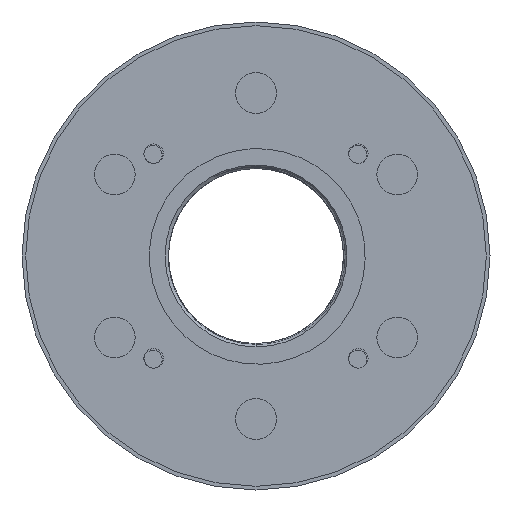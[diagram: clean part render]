
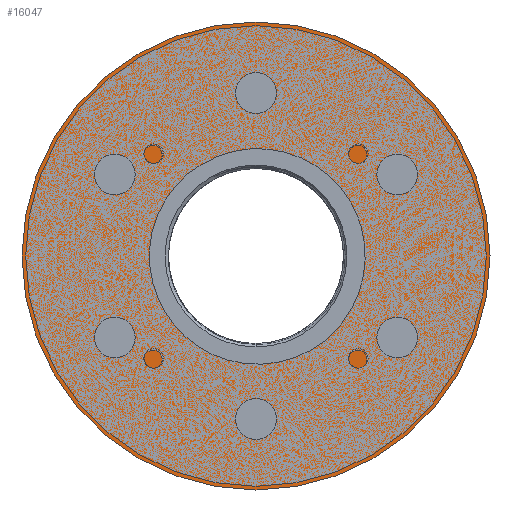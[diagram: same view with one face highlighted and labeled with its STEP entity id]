
A CAD part, front view. The second image highlights one B-rep face of the part: STEP entity #16047.
In plain terms, the highlighted planar face has unit normal (0, 1, 0).
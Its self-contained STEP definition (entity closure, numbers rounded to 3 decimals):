
#15845=CARTESIAN_POINT('',(20.689,0.,11.945));
#15846=DIRECTION('',(0.,1.,0.));
#15847=DIRECTION('',(0.,0.,1.));
#15848=AXIS2_PLACEMENT_3D('',#15845,#15846,#15847);
#15850=CARTESIAN_POINT('',(20.689,0.,11.945));
#15851=DIRECTION('',(0.,1.,0.));
#15852=DIRECTION('',(0.,0.,-1.));
#15853=AXIS2_PLACEMENT_3D('',#15850,#15851,#15852);
#15855=CARTESIAN_POINT('',(-20.689,0.,11.945));
#15856=DIRECTION('',(0.,1.,0.));
#15857=DIRECTION('',(0.,0.,1.));
#15858=AXIS2_PLACEMENT_3D('',#15855,#15856,#15857);
#15860=CARTESIAN_POINT('',(-20.689,0.,11.945));
#15861=DIRECTION('',(0.,1.,0.));
#15862=DIRECTION('',(0.,0.,-1.));
#15863=AXIS2_PLACEMENT_3D('',#15860,#15861,#15862);
#15865=CARTESIAN_POINT('',(0.,0.,-23.89));
#15866=DIRECTION('',(0.,1.,0.));
#15867=DIRECTION('',(0.,0.,1.));
#15868=AXIS2_PLACEMENT_3D('',#15865,#15866,#15867);
#15870=CARTESIAN_POINT('',(0.,0.,-23.89));
#15871=DIRECTION('',(0.,1.,0.));
#15872=DIRECTION('',(0.,0.,-1.));
#15873=AXIS2_PLACEMENT_3D('',#15870,#15871,#15872);
#15875=CARTESIAN_POINT('',(20.689,0.,-11.945));
#15876=DIRECTION('',(0.,1.,0.));
#15877=DIRECTION('',(0.,0.,1.));
#15878=AXIS2_PLACEMENT_3D('',#15875,#15876,#15877);
#15880=CARTESIAN_POINT('',(20.689,0.,-11.945));
#15881=DIRECTION('',(0.,1.,0.));
#15882=DIRECTION('',(0.,0.,-1.));
#15883=AXIS2_PLACEMENT_3D('',#15880,#15881,#15882);
#15885=CARTESIAN_POINT('',(-20.689,0.,-11.945));
#15886=DIRECTION('',(0.,1.,0.));
#15887=DIRECTION('',(0.,0.,1.));
#15888=AXIS2_PLACEMENT_3D('',#15885,#15886,#15887);
#15890=CARTESIAN_POINT('',(-20.689,0.,-11.945));
#15891=DIRECTION('',(0.,1.,0.));
#15892=DIRECTION('',(0.,0.,-1.));
#15893=AXIS2_PLACEMENT_3D('',#15890,#15891,#15892);
#15895=CARTESIAN_POINT('',(0.,0.,23.89));
#15896=DIRECTION('',(0.,1.,0.));
#15897=DIRECTION('',(0.,0.,1.));
#15898=AXIS2_PLACEMENT_3D('',#15895,#15896,#15897);
#15900=CARTESIAN_POINT('',(0.,0.,23.89));
#15901=DIRECTION('',(0.,1.,0.));
#15902=DIRECTION('',(0.,0.,-1.));
#15903=AXIS2_PLACEMENT_3D('',#15900,#15901,#15902);
#15905=CARTESIAN_POINT('',(0.,0.,0.));
#15906=DIRECTION('',(0.,-1.,0.));
#15907=DIRECTION('',(1.,0.,0.));
#15908=AXIS2_PLACEMENT_3D('',#15905,#15906,#15907);
#15910=CARTESIAN_POINT('',(0.,0.,0.));
#15911=DIRECTION('',(0.,-1.,0.));
#15912=DIRECTION('',(-1.,0.,0.));
#15913=AXIS2_PLACEMENT_3D('',#15910,#15911,#15912);
#15915=CARTESIAN_POINT('',(10.021,0.,-12.473));
#15916=CARTESIAN_POINT('',(9.252,0.,-13.075));
#15917=CARTESIAN_POINT('',(7.633,0.,-14.119));
#15918=CARTESIAN_POINT('',(4.922,0.,-15.24));
#15919=CARTESIAN_POINT('',(2.074,0.,-15.84));
#15920=CARTESIAN_POINT('',(-0.818,0.,-15.919));
#15921=CARTESIAN_POINT('',(-3.711,0.,-15.461));
#15922=CARTESIAN_POINT('',(-6.408,0.,-14.511));
#15923=CARTESIAN_POINT('',(-8.939,0.,-13.06));
#15924=CARTESIAN_POINT('',(-11.129,0.,-11.199));
#15925=CARTESIAN_POINT('',(-12.961,0.,-8.949));
#15926=CARTESIAN_POINT('',(-13.876,0.,-7.275));
#15927=CARTESIAN_POINT('',(-14.26,0.,-6.387));
#15929=CARTESIAN_POINT('',(0.,0.,0.));
#15930=DIRECTION('',(0.,1.,0.));
#15931=DIRECTION('',(-0.913,0.,-0.409));
#15932=AXIS2_PLACEMENT_3D('',#15929,#15930,#15931);
#15934=CARTESIAN_POINT('',(-7.908,0.,13.476));
#15935=CARTESIAN_POINT('',(-7.09,0.,13.971));
#15936=CARTESIAN_POINT('',(-5.389,0.,14.798));
#15937=CARTESIAN_POINT('',(-2.608,0.,15.572));
#15938=CARTESIAN_POINT('',(0.273,0.,15.822));
#15939=CARTESIAN_POINT('',(3.128,0.,15.551));
#15940=CARTESIAN_POINT('',(5.936,0.,14.751));
#15941=CARTESIAN_POINT('',(8.508,0.,13.474));
#15942=CARTESIAN_POINT('',(10.816,0.,11.755));
#15943=CARTESIAN_POINT('',(12.795,0.,9.63));
#15944=CARTESIAN_POINT('',(14.381,0.,7.133));
#15945=CARTESIAN_POINT('',(15.114,0.,5.307));
#15946=CARTESIAN_POINT('',(15.399,0.,4.345));
#15948=CARTESIAN_POINT('',(15.399,0.,4.345));
#15949=CARTESIAN_POINT('',(15.684,0.,3.333));
#15950=CARTESIAN_POINT('',(16.048,0.,1.297));
#15951=CARTESIAN_POINT('',(15.998,0.,-1.836));
#15952=CARTESIAN_POINT('',(15.334,0.,-4.911));
#15953=CARTESIAN_POINT('',(14.101,0.,-7.774));
#15954=CARTESIAN_POINT('',(12.319,0.,-10.367));
#15955=CARTESIAN_POINT('',(10.841,0.,-11.814));
#15956=CARTESIAN_POINT('',(10.021,0.,-12.473));
#15958=CARTESIAN_POINT('',(-34.29,0.,0.));
#15959=CARTESIAN_POINT('',(34.29,0.,0.));
#15960=VERTEX_POINT('',#15958);
#15961=VERTEX_POINT('',#15959);
#15962=VERTEX_POINT('',#15927);
#15963=VERTEX_POINT('',#15915);
#15964=VERTEX_POINT('',#15948);
#15965=VERTEX_POINT('',#15934);
#15966=CARTESIAN_POINT('',(20.689,0.,8.96));
#15967=CARTESIAN_POINT('',(20.689,0.,14.93));
#15968=VERTEX_POINT('',#15966);
#15969=VERTEX_POINT('',#15967);
#15970=CARTESIAN_POINT('',(-20.689,0.,8.96));
#15971=CARTESIAN_POINT('',(-20.689,0.,14.93));
#15972=VERTEX_POINT('',#15970);
#15973=VERTEX_POINT('',#15971);
#15974=CARTESIAN_POINT('',(0.,0.,-26.875));
#15975=CARTESIAN_POINT('',(0.,0.,-20.905));
#15976=VERTEX_POINT('',#15974);
#15977=VERTEX_POINT('',#15975);
#15978=CARTESIAN_POINT('',(20.689,0.,-14.93));
#15979=CARTESIAN_POINT('',(20.689,0.,-8.96));
#15980=VERTEX_POINT('',#15978);
#15981=VERTEX_POINT('',#15979);
#15982=CARTESIAN_POINT('',(-20.689,0.,-14.93));
#15983=CARTESIAN_POINT('',(-20.689,0.,-8.96));
#15984=VERTEX_POINT('',#15982);
#15985=VERTEX_POINT('',#15983);
#15986=CARTESIAN_POINT('',(0.,0.,20.905));
#15987=CARTESIAN_POINT('',(0.,0.,26.875));
#15988=VERTEX_POINT('',#15986);
#15989=VERTEX_POINT('',#15987);
#15990=CARTESIAN_POINT('',(0.,0.,0.));
#15991=DIRECTION('',(0.,1.,0.));
#15992=DIRECTION('',(-1.,0.,0.));
#15993=AXIS2_PLACEMENT_3D('',#15990,#15991,#15992);
#15994=PLANE('',#15993);
#15996=ORIENTED_EDGE('',*,*,#15995,.T.);
#15998=ORIENTED_EDGE('',*,*,#15997,.T.);
#15999=EDGE_LOOP('',(#15996,#15998));
#16000=FACE_OUTER_BOUND('',#15999,.F.);
#16002=ORIENTED_EDGE('',*,*,#16001,.T.);
#16004=ORIENTED_EDGE('',*,*,#16003,.T.);
#16005=EDGE_LOOP('',(#16002,#16004));
#16006=FACE_BOUND('',#16005,.F.);
#16008=ORIENTED_EDGE('',*,*,#16007,.T.);
#16010=ORIENTED_EDGE('',*,*,#16009,.T.);
#16011=EDGE_LOOP('',(#16008,#16010));
#16012=FACE_BOUND('',#16011,.F.);
#16014=ORIENTED_EDGE('',*,*,#16013,.T.);
#16016=ORIENTED_EDGE('',*,*,#16015,.T.);
#16017=EDGE_LOOP('',(#16014,#16016));
#16018=FACE_BOUND('',#16017,.F.);
#16020=ORIENTED_EDGE('',*,*,#16019,.T.);
#16022=ORIENTED_EDGE('',*,*,#16021,.T.);
#16023=EDGE_LOOP('',(#16020,#16022));
#16024=FACE_BOUND('',#16023,.F.);
#16026=ORIENTED_EDGE('',*,*,#16025,.T.);
#16028=ORIENTED_EDGE('',*,*,#16027,.T.);
#16029=EDGE_LOOP('',(#16026,#16028));
#16030=FACE_BOUND('',#16029,.F.);
#16032=ORIENTED_EDGE('',*,*,#16031,.T.);
#16034=ORIENTED_EDGE('',*,*,#16033,.T.);
#16035=EDGE_LOOP('',(#16032,#16034));
#16036=FACE_BOUND('',#16035,.F.);
#16038=ORIENTED_EDGE('',*,*,#16037,.T.);
#16040=ORIENTED_EDGE('',*,*,#16039,.T.);
#16042=ORIENTED_EDGE('',*,*,#16041,.T.);
#16044=ORIENTED_EDGE('',*,*,#16043,.T.);
#16045=EDGE_LOOP('',(#16038,#16040,#16042,#16044));
#16046=FACE_BOUND('',#16045,.F.);
#16047=ADVANCED_FACE('',(#16000,#16006,#16012,#16018,#16024,#16030,#16036,
#16046),#15994,.T.);
#15849=CIRCLE('',#15848,2.985);
#15854=CIRCLE('',#15853,2.985);
#15859=CIRCLE('',#15858,2.985);
#15864=CIRCLE('',#15863,2.985);
#15869=CIRCLE('',#15868,2.985);
#15874=CIRCLE('',#15873,2.985);
#15879=CIRCLE('',#15878,2.985);
#15884=CIRCLE('',#15883,2.985);
#15889=CIRCLE('',#15888,2.985);
#15894=CIRCLE('',#15893,2.985);
#15899=CIRCLE('',#15898,2.985);
#15904=CIRCLE('',#15903,2.985);
#15909=CIRCLE('',#15908,34.29);
#15914=CIRCLE('',#15913,34.29);
#15928=B_SPLINE_CURVE_WITH_KNOTS('',3,(#15915,#15916,#15917,#15918,#15919,
#15920,#15921,#15922,#15923,#15924,#15925,#15926,#15927),.UNSPECIFIED.,.F.,.F.,(
4,1,1,1,1,1,1,1,1,1,4),(0.,0.1,0.2,0.3,0.4,0.5,0.6,0.7,0.8,
0.9,1.),.UNSPECIFIED.);
#15933=CIRCLE('',#15932,15.625);
#15947=B_SPLINE_CURVE_WITH_KNOTS('',3,(#15934,#15935,#15936,#15937,#15938,
#15939,#15940,#15941,#15942,#15943,#15944,#15945,#15946),.UNSPECIFIED.,.F.,.F.,(
4,1,1,1,1,1,1,1,1,1,4),(0.,0.1,0.2,0.3,0.4,0.5,0.6,0.7,0.8,
0.9,1.),.UNSPECIFIED.);
#15957=B_SPLINE_CURVE_WITH_KNOTS('',3,(#15948,#15949,#15950,#15951,#15952,
#15953,#15954,#15955,#15956),.UNSPECIFIED.,.F.,.F.,(4,1,1,1,1,1,4),(0.,
0.167,0.333,0.5,0.667,0.833,
1.),.UNSPECIFIED.);
#15995=EDGE_CURVE('',#15961,#15960,#15909,.T.);
#15997=EDGE_CURVE('',#15960,#15961,#15914,.T.);
#16001=EDGE_CURVE('',#15973,#15972,#15859,.T.);
#16003=EDGE_CURVE('',#15972,#15973,#15864,.T.);
#16007=EDGE_CURVE('',#15977,#15976,#15869,.T.);
#16009=EDGE_CURVE('',#15976,#15977,#15874,.T.);
#16013=EDGE_CURVE('',#15981,#15980,#15879,.T.);
#16015=EDGE_CURVE('',#15980,#15981,#15884,.T.);
#16019=EDGE_CURVE('',#15985,#15984,#15889,.T.);
#16021=EDGE_CURVE('',#15984,#15985,#15894,.T.);
#16025=EDGE_CURVE('',#15989,#15988,#15899,.T.);
#16027=EDGE_CURVE('',#15988,#15989,#15904,.T.);
#16031=EDGE_CURVE('',#15969,#15968,#15849,.T.);
#16033=EDGE_CURVE('',#15968,#15969,#15854,.T.);
#16037=EDGE_CURVE('',#15963,#15962,#15928,.T.);
#16039=EDGE_CURVE('',#15962,#15965,#15933,.T.);
#16041=EDGE_CURVE('',#15965,#15964,#15947,.T.);
#16043=EDGE_CURVE('',#15964,#15963,#15957,.T.);
